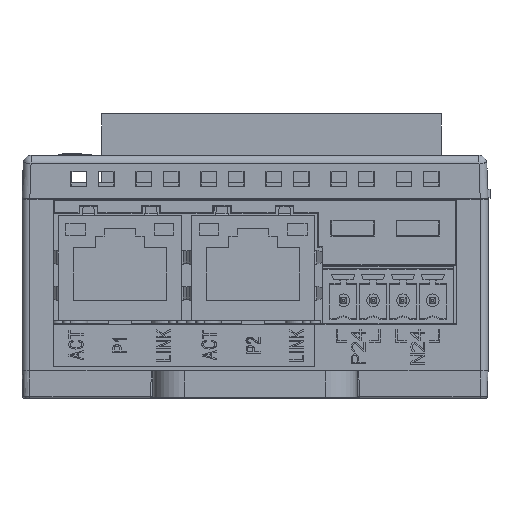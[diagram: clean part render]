
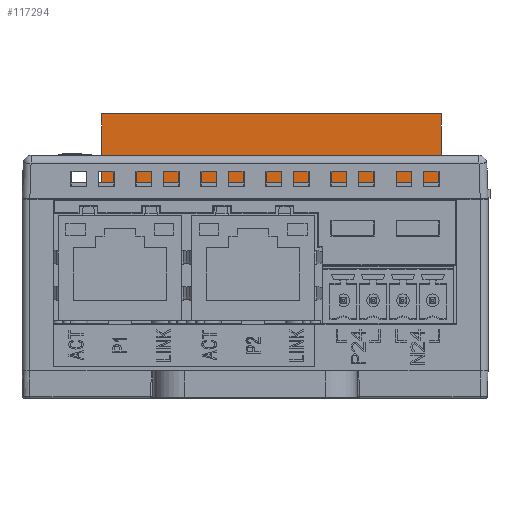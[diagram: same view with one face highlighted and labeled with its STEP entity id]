
A CAD part, front view. The second image highlights one B-rep face of the part: STEP entity #117294.
In plain terms, the highlighted planar face has unit normal (0, -1, 0).
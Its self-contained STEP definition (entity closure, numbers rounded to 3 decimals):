
#26571=DIRECTION('',(1.,0.,0.));
#26572=VECTOR('',#26571,43.3);
#26573=CARTESIAN_POINT('',(-19.55,-19.15,27.5));
#26574=LINE('',#26573,#26572);
#29007=DIRECTION('',(0.,0.,-1.));
#29008=VECTOR('',#29007,8.8);
#29009=CARTESIAN_POINT('',(23.75,-19.15,36.3));
#29010=LINE('',#29009,#29008);
#29015=DIRECTION('',(0.,0.,-1.));
#29016=VECTOR('',#29015,8.8);
#29017=CARTESIAN_POINT('',(-19.55,-19.15,36.3));
#29018=LINE('',#29017,#29016);
#29019=DIRECTION('',(-1.,0.,0.));
#29020=VECTOR('',#29019,43.3);
#29021=CARTESIAN_POINT('',(23.75,-19.15,36.3));
#29022=LINE('',#29021,#29020);
#47297=CARTESIAN_POINT('',(-19.55,-19.15,36.3));
#47299=VERTEX_POINT('',#47297);
#47303=CARTESIAN_POINT('',(23.75,-19.15,36.3));
#47304=VERTEX_POINT('',#47303);
#58622=CARTESIAN_POINT('',(-19.55,-19.15,27.5));
#58624=VERTEX_POINT('',#58622);
#58625=CARTESIAN_POINT('',(23.75,-19.15,27.5));
#58626=VERTEX_POINT('',#58625);
#117282=CARTESIAN_POINT('',(2.1,-19.15,31.7));
#117283=DIRECTION('',(0.,1.,0.));
#117284=DIRECTION('',(1.,0.,0.));
#117285=AXIS2_PLACEMENT_3D('',#117282,#117283,#117284);
#117286=PLANE('',#117285);
#117287=ORIENTED_EDGE('',*,*,#113439,.F.);
#117288=ORIENTED_EDGE('',*,*,#117228,.F.);
#117290=ORIENTED_EDGE('',*,*,#117289,.F.);
#117291=ORIENTED_EDGE('',*,*,#117267,.T.);
#117292=EDGE_LOOP('',(#117287,#117288,#117290,#117291));
#117293=FACE_OUTER_BOUND('',#117292,.F.);
#117294=ADVANCED_FACE('',(#117293),#117286,.F.);
#113439=EDGE_CURVE('',#58624,#58626,#26574,.T.);
#117228=EDGE_CURVE('',#47299,#58624,#29018,.T.);
#117267=EDGE_CURVE('',#47304,#58626,#29010,.T.);
#117289=EDGE_CURVE('',#47304,#47299,#29022,.T.);
